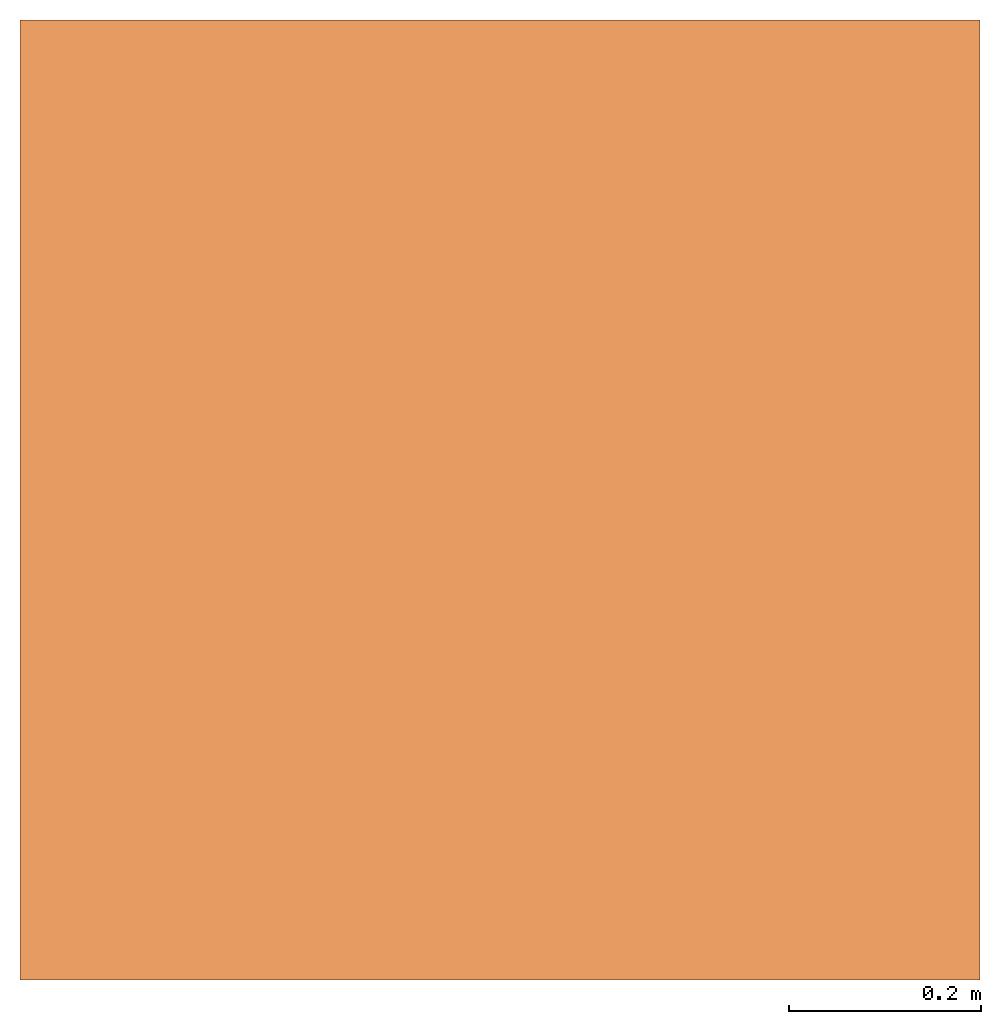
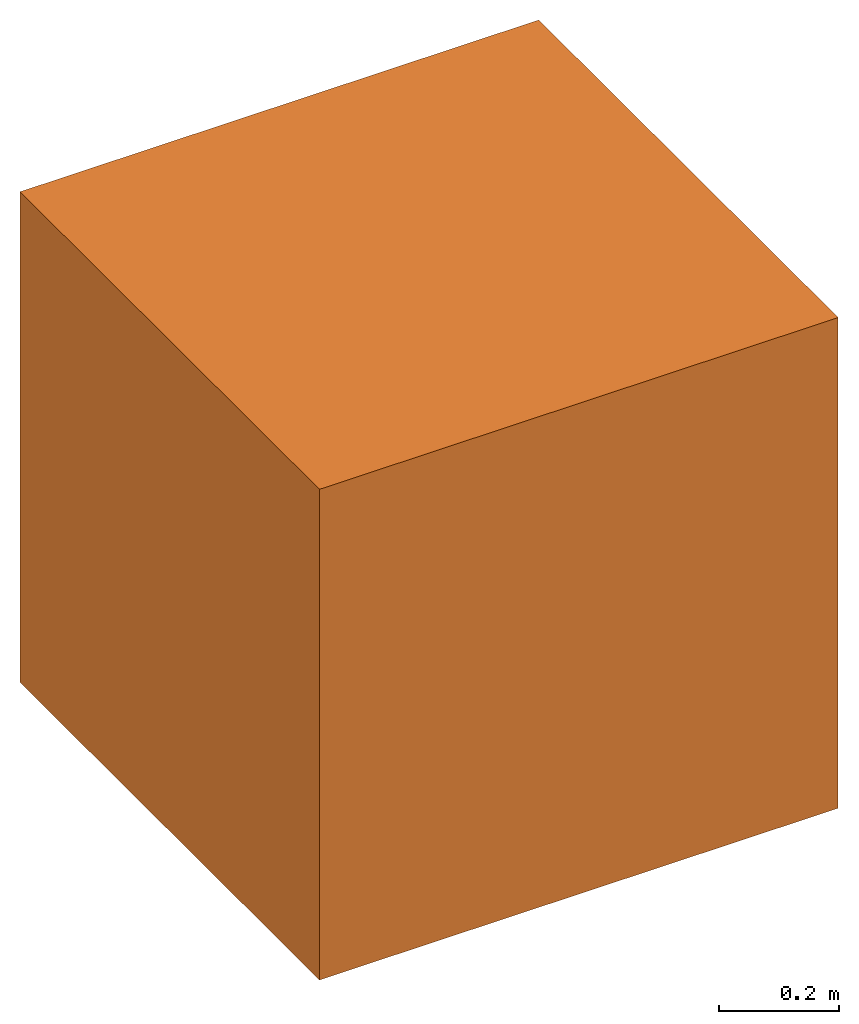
# Not in any storey: 1 proxy.
"""IFC4 model written with IfcOpenShell, lengths in millimetres."""

from ifc_helpers import new_model, entity, si_unit, converted_unit, derived_unit, direction, origin, place, context, subcontext, project, spatial, polygons, source, transform, mapped, material, constituent, constituent_set, type_object, type_shapes, element, save


model = new_model("IFC4")

# Units and contexts
model_context = context("Model", 3, precision=0.01, world=origin(), true_north=direction((6.123031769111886e-17, 1.0)))
plan_context = context("Plan", 3, precision=0.01, world=origin(), true_north=direction((6.123031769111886e-17, 1.0)))
body_context = subcontext(model_context, "Body", "Model", "MODEL_VIEW")
ifc_project = project(units=[si_unit("LENGTHUNIT", "METRE", prefix="MILLI"), converted_unit("PLANEANGLEUNIT", "DEGREE", entity("IfcPlaneAngleMeasure", 0.017453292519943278), si_unit("PLANEANGLEUNIT", "RADIAN"), dimensions=[0, 0, 0, 0, 0, 0, 0]), si_unit("AREAUNIT", "SQUARE_METRE"), si_unit("VOLUMEUNIT", "CUBIC_METRE"), si_unit("POWERUNIT", "WATT"), derived_unit("USERDEFINED", [(si_unit("MASSUNIT", "GRAM", prefix="KILO"), 1), (si_unit("TIMEUNIT", "SECOND"), -3)])], contexts=[model_context, plan_context])

# Site
site_placement = place(None, origin())
site = spatial("IfcSite", under=ifc_project, at=site_placement, Name="[ComplexCode]", CompositionType="ELEMENT")

# Proxy
ifc_material_1 = material(Name="generiek - kleur")
ifc_constituent_1 = constituent(ifc_material_1, Name="generiek - kleur")
ifc_material_2 = material(Name="generiek - kleur")
ifc_constituent_2 = constituent(ifc_material_2, Name="generiek - kleur")
ifc_constituent_set_1 = constituent_set(constituents=[ifc_constituent_1, ifc_constituent_2])
ifc_constituent_3 = constituent(ifc_material_1, Name="generiek - kleur")
ifc_constituent_4 = constituent(ifc_material_2, Name="generiek - kleur")
ifc_constituent_set_2 = constituent_set(constituents=[ifc_constituent_3, ifc_constituent_4])
building_element_proxy_type = type_object("IfcBuildingElementProxyType", Name="Generic Models : RBS_--_GM_coördinatiepunt : peildatum_UIT", PredefinedType="USERDEFINED", material=ifc_constituent_set_2)
shared_shape = source(origin(), body_context, "Body", "Tessellation", [
    polygons([(-999.9999999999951, -8.229942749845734e-12, -1000.0000000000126), (-1000.0000000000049, -8.42309195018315e-12, -1.191153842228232e-11), (-199.99999999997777, -1.3065778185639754e-11, -4.126998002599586e-12), (-2.366045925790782e-12, -1.4264522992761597e-11, -199.9999999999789), (5.518405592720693e-12, -1.4055860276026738e-11, -1000.0000000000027), (-1000.0000000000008, -1000.0000000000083, -1000.000000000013), (-3.1026528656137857e-13, -1000.0000000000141, -1000.000000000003), (-1.016013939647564e-11, -1000.0000000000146, -2.3462121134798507e-12), (-1000.0000000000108, -1000.0000000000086, -1.2182255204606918e-11), (-5.4808602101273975e-12, -199.99999999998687, -2.1837820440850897e-12)], [[[1, 2, 3, 4, 5]], [[6, 7, 8, 9]], [[1, 5, 7, 6]], [[8, 7, 5, 4, 10]], [[9, 8, 10, 3, 2]], [[2, 1, 6, 9]], [[4, 3, 10]]], closed=True),
    polygons([(-199.9999999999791, -1.2396572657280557e-11, -3.375623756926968e-12), (-2.425171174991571e-13, -1.5763612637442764e-11, -4.461186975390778e-12), (3.327560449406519e-12, -1.4639507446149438e-11, -199.99999999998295), (6.765242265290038e-13, -199.99999999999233, -2.9102054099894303e-12)], [[[1, 2, 3]], [[3, 2, 4]], [[4, 2, 1]], [[1, 3, 4]]], closed=True),
])
type_shapes(building_element_proxy_type, [shared_shape])
proxy_placement = place(site_placement, origin())
element("IfcBuildingElementProxy", 1, at=proxy_placement, inside=site, type_object=building_element_proxy_type, material=ifc_constituent_set_1, Name="coördinatiepunt", ObjectType="coördinatiepunt", PredefinedType="USERDEFINED", context=body_context, shape_type="MappedRepresentation", body=[
    mapped(shared_shape, transform((0.0, 0.0, 0.0), scale=1.0)),
])

save(model, "model.ifc")
